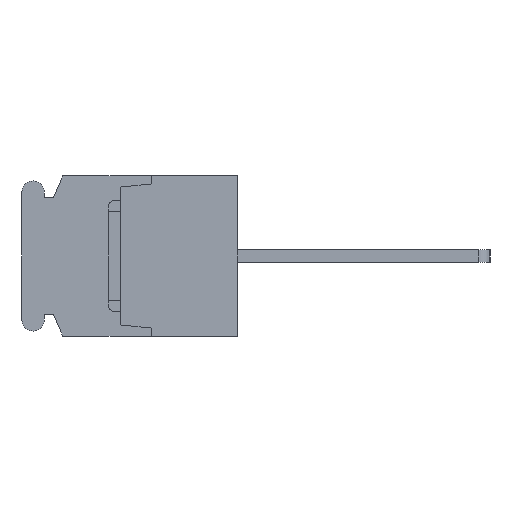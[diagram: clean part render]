
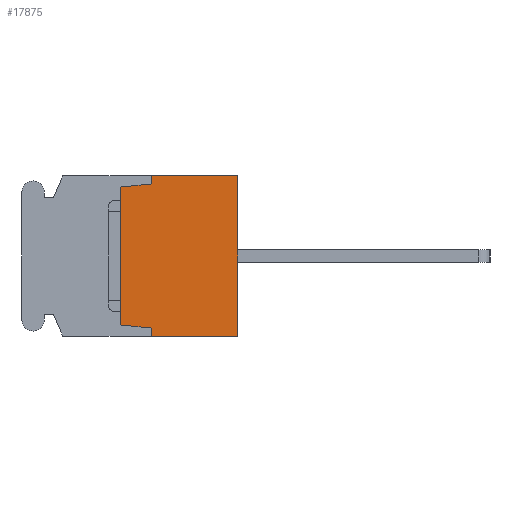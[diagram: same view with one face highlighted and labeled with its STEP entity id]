
A CAD part, left-side view. The second image highlights one B-rep face of the part: STEP entity #17875.
In plain terms, the highlighted planar face has unit normal (-1, 0, 0).
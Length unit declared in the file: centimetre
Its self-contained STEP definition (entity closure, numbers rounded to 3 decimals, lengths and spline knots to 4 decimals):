
#1241=VECTOR('',#19794,1.);
#1274=VECTOR('',#19828,1.);
#1336=VECTOR('',#19906,1.);
#2221=VECTOR('',#22179,1.);
#2222=VECTOR('',#22180,1.);
#2223=VECTOR('',#22181,1.);
#2224=VECTOR('',#22182,1.);
#2225=VECTOR('',#22183,1.);
#3217=LINE('',#24788,#1241);
#3250=LINE('',#24853,#1274);
#3312=LINE('',#24980,#1336);
#4197=LINE('',#27927,#2221);
#4198=LINE('',#27929,#2222);
#4199=LINE('',#27931,#2223);
#4200=LINE('',#27933,#2224);
#4201=LINE('',#27935,#2225);
#5207=VERTEX_POINT('',#24785);
#5208=VERTEX_POINT('',#24787);
#5240=VERTEX_POINT('',#24854);
#5292=VERTEX_POINT('',#24979);
#6133=VERTEX_POINT('',#27928);
#6134=VERTEX_POINT('',#27930);
#6135=VERTEX_POINT('',#27932);
#6136=VERTEX_POINT('',#27934);
#7570=EDGE_CURVE('',#5208,#5207,#3217,.T.);
#7603=EDGE_CURVE('',#5207,#5240,#3250,.T.);
#7667=EDGE_CURVE('',#5292,#5208,#3312,.T.);
#8972=EDGE_CURVE('',#6133,#5292,#4197,.T.);
#8973=EDGE_CURVE('',#6134,#6133,#4198,.T.);
#8974=EDGE_CURVE('',#6135,#6134,#4199,.T.);
#8975=EDGE_CURVE('',#6136,#6135,#4200,.T.);
#8976=EDGE_CURVE('',#5240,#6136,#4201,.T.);
#13794=ORIENTED_EDGE('',*,*,#7570,.F.);
#13795=ORIENTED_EDGE('',*,*,#7667,.F.);
#13796=ORIENTED_EDGE('',*,*,#8972,.F.);
#13797=ORIENTED_EDGE('',*,*,#8973,.F.);
#13798=ORIENTED_EDGE('',*,*,#8974,.F.);
#13799=ORIENTED_EDGE('',*,*,#8975,.F.);
#13800=ORIENTED_EDGE('',*,*,#8976,.F.);
#13801=ORIENTED_EDGE('',*,*,#7603,.F.);
#15730=EDGE_LOOP('',(#13794,#13795,#13796,#13797,#13798,#13799,#13800,#13801));
#16858=FACE_BOUND('',#15730,.T.);
#17875=ADVANCED_FACE('',(#16858),#18682,.F.);
#18682=PLANE('',#30601);
#19794=DIRECTION('',(0.,0.,-1.));
#19828=DIRECTION('',(0.,1.,0.));
#19906=DIRECTION('',(0.,-1.,0.));
#22178=DIRECTION('',(1.,0.,0.));
#22179=DIRECTION('',(0.,0.,1.));
#22180=DIRECTION('',(0.,-0.995,0.1));
#22181=DIRECTION('',(0.,0.,1.));
#22182=DIRECTION('',(0.,0.995,0.1));
#22183=DIRECTION('',(0.,0.,1.));
#24785=CARTESIAN_POINT('',(-1.84,0.,-0.65));
#24787=CARTESIAN_POINT('',(-1.84,0.,0.65));
#24788=CARTESIAN_POINT('',(-1.84,0.,0.65));
#24853=CARTESIAN_POINT('',(-1.84,0.,-0.65));
#24854=CARTESIAN_POINT('',(-1.84,0.7,-0.65));
#24979=CARTESIAN_POINT('',(-1.84,0.7,0.65));
#24980=CARTESIAN_POINT('',(-1.84,0.7,0.65));
#27926=CARTESIAN_POINT('',(-1.84,0.4626,0.));
#27927=CARTESIAN_POINT('',(-1.84,0.7,0.585));
#27928=CARTESIAN_POINT('',(-1.84,0.7,0.585));
#27929=CARTESIAN_POINT('',(-1.84,0.95,0.56));
#27930=CARTESIAN_POINT('',(-1.84,0.95,0.56));
#27931=CARTESIAN_POINT('',(-1.84,0.95,-0.56));
#27932=CARTESIAN_POINT('',(-1.84,0.95,-0.56));
#27933=CARTESIAN_POINT('',(-1.84,0.7,-0.585));
#27934=CARTESIAN_POINT('',(-1.84,0.7,-0.585));
#27935=CARTESIAN_POINT('',(-1.84,0.7,-0.65));
#30601=AXIS2_PLACEMENT_3D('',#27926,#22178,$);
